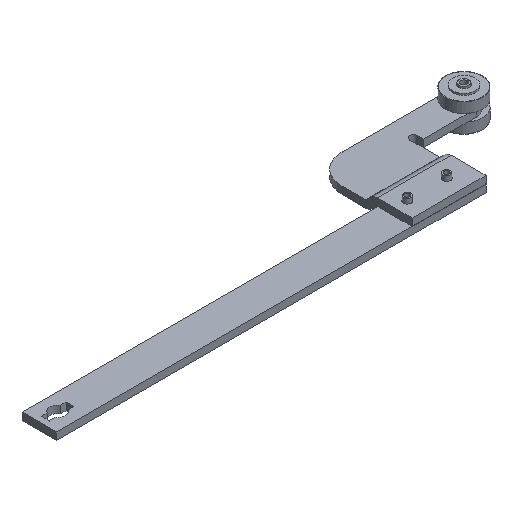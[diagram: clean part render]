
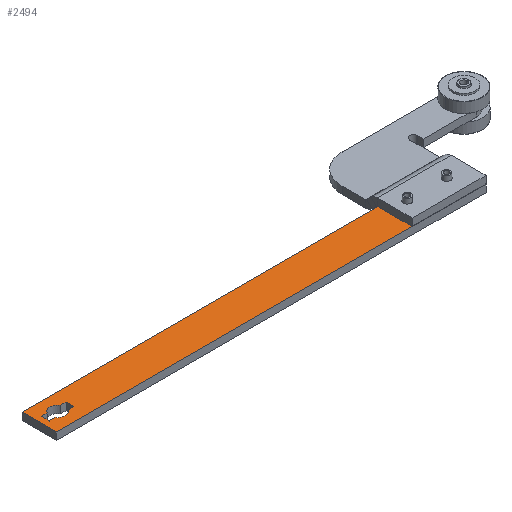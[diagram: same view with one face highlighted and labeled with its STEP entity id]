
A CAD part, isometric view. The second image highlights one B-rep face of the part: STEP entity #2494.
In plain terms, the highlighted planar face has unit normal (0, 0, 1).
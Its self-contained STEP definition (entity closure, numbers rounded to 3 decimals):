
#8 = AXIS2_PLACEMENT_3D ( 'NONE', #658, #1320, #1546 ) ;
#9 = FACE_BOUND ( 'NONE', #1313, .T. ) ;
#28 = VERTEX_POINT ( 'NONE', #212 ) ;
#63 = DIRECTION ( 'NONE',  ( 1., 0., 0. ) ) ;
#115 = ORIENTED_EDGE ( 'NONE', *, *, #1394, .F. ) ;
#122 = ORIENTED_EDGE ( 'NONE', *, *, #598, .T. ) ;
#126 = CARTESIAN_POINT ( 'NONE',  ( 167.05, 7., 0. ) ) ;
#128 = VERTEX_POINT ( 'NONE', #2424 ) ;
#172 = CIRCLE ( 'NONE', #312, 1.55 ) ;
#197 = EDGE_CURVE ( 'NONE', #2375, #626, #2498, .T. ) ;
#212 = CARTESIAN_POINT ( 'NONE',  ( 151.05, 7., 0. ) ) ;
#264 = DIRECTION ( 'NONE',  ( -1., 0., 0. ) ) ;
#276 = LINE ( 'NONE', #1157, #2384 ) ;
#288 = VERTEX_POINT ( 'NONE', #768 ) ;
#312 = AXIS2_PLACEMENT_3D ( 'NONE', #1390, #1438, #2714 ) ;
#333 = DIRECTION ( 'NONE',  ( 0., 0., 1. ) ) ;
#374 = CIRCLE ( 'NONE', #877, 1.55 ) ;
#404 = VECTOR ( 'NONE', #2761, 1000. ) ;
#439 = FACE_BOUND ( 'NONE', #1035, .T. ) ;
#445 = CARTESIAN_POINT ( 'NONE',  ( 149.5, 7., 0. ) ) ;
#451 = FACE_BOUND ( 'NONE', #745, .T. ) ;
#494 = CARTESIAN_POINT ( 'NONE',  ( 4.815, 5.45, 0. ) ) ;
#510 = DIRECTION ( 'NONE',  ( 1., 0., 0. ) ) ;
#511 = CIRCLE ( 'NONE', #2131, 1.55 ) ;
#548 = LINE ( 'NONE', #1836, #1267 ) ;
#565 = ORIENTED_EDGE ( 'NONE', *, *, #2770, .F. ) ;
#581 = ORIENTED_EDGE ( 'NONE', *, *, #886, .F. ) ;
#598 = EDGE_CURVE ( 'NONE', #1138, #2073, #827, .T. ) ;
#601 = VECTOR ( 'NONE', #2132, 1000. ) ;
#614 = CARTESIAN_POINT ( 'NONE',  ( 12.5, 5.45, 0. ) ) ;
#626 = VERTEX_POINT ( 'NONE', #2805 ) ;
#635 = CARTESIAN_POINT ( 'NONE',  ( 7.5, 7., 0. ) ) ;
#649 = DIRECTION ( 'NONE',  ( 1., 0., 0. ) ) ;
#658 = CARTESIAN_POINT ( 'NONE',  ( 149.5, 7., 0. ) ) ;
#697 = PLANE ( 'NONE',  #2317 ) ;
#719 = CARTESIAN_POINT ( 'NONE',  ( 7.5, 7., 0. ) ) ;
#720 = ORIENTED_EDGE ( 'NONE', *, *, #1533, .F. ) ;
#745 = EDGE_LOOP ( 'NONE', ( #1213, #2500 ) ) ;
#759 = DIRECTION ( 'NONE',  ( -1., 0., 0. ) ) ;
#768 = CARTESIAN_POINT ( 'NONE',  ( 10.185, 8.55, 0. ) ) ;
#805 = DIRECTION ( 'NONE',  ( 1., 0., 0. ) ) ;
#827 = LINE ( 'NONE', #1245, #2842 ) ;
#867 = ORIENTED_EDGE ( 'NONE', *, *, #197, .T. ) ;
#877 = AXIS2_PLACEMENT_3D ( 'NONE', #445, #2322, #510 ) ;
#886 = EDGE_CURVE ( 'NONE', #288, #128, #893, .T. ) ;
#893 = CIRCLE ( 'NONE', #1461, 3.1 ) ;
#967 = LINE ( 'NONE', #2089, #2851 ) ;
#1035 = EDGE_LOOP ( 'NONE', ( #1145, #581, #1341, #115, #1762, #565, #2247, #1424 ) ) ;
#1039 = LINE ( 'NONE', #1498, #2445 ) ;
#1049 = VERTEX_POINT ( 'NONE', #2086 ) ;
#1057 = DIRECTION ( 'NONE',  ( 0., 0., 1. ) ) ;
#1063 = AXIS2_PLACEMENT_3D ( 'NONE', #635, #1057, #649 ) ;
#1099 = EDGE_CURVE ( 'NONE', #626, #1138, #548, .T. ) ;
#1138 = VERTEX_POINT ( 'NONE', #1172 ) ;
#1145 = ORIENTED_EDGE ( 'NONE', *, *, #2166, .F. ) ;
#1157 = CARTESIAN_POINT ( 'NONE',  ( 4.815, 5.45, 0. ) ) ;
#1172 = CARTESIAN_POINT ( 'NONE',  ( 174.5, 0., 0. ) ) ;
#1183 = DIRECTION ( 'NONE',  ( 0., -1., 0. ) ) ;
#1213 = ORIENTED_EDGE ( 'NONE', *, *, #2533, .F. ) ;
#1219 = VECTOR ( 'NONE', #1183, 1000. ) ;
#1238 = CARTESIAN_POINT ( 'NONE',  ( 12.5, 8.55, 0. ) ) ;
#1245 = CARTESIAN_POINT ( 'NONE',  ( 174.5, 0., 0. ) ) ;
#1267 = VECTOR ( 'NONE', #1657, 1000. ) ;
#1298 = VECTOR ( 'NONE', #805, 1000. ) ;
#1313 = EDGE_LOOP ( 'NONE', ( #2321, #720 ) ) ;
#1320 = DIRECTION ( 'NONE',  ( 0., 0., 1. ) ) ;
#1327 = CARTESIAN_POINT ( 'NONE',  ( 0., 14., 0. ) ) ;
#1341 = ORIENTED_EDGE ( 'NONE', *, *, #1753, .F. ) ;
#1366 = DIRECTION ( 'NONE',  ( 0., 0., 1. ) ) ;
#1390 = CARTESIAN_POINT ( 'NONE',  ( 165.5, 7., 0. ) ) ;
#1394 = EDGE_CURVE ( 'NONE', #1880, #1049, #967, .T. ) ;
#1413 = EDGE_CURVE ( 'NONE', #2603, #2510, #276, .T. ) ;
#1420 = EDGE_LOOP ( 'NONE', ( #867, #2499, #122, #1746 ) ) ;
#1424 = ORIENTED_EDGE ( 'NONE', *, *, #2063, .F. ) ;
#1429 = CARTESIAN_POINT ( 'NONE',  ( 2.5, 5.45, 0. ) ) ;
#1438 = DIRECTION ( 'NONE',  ( 0., 0., 1. ) ) ;
#1456 = VERTEX_POINT ( 'NONE', #2352 ) ;
#1461 = AXIS2_PLACEMENT_3D ( 'NONE', #719, #1366, #2706 ) ;
#1498 = CARTESIAN_POINT ( 'NONE',  ( 0., 14., 0. ) ) ;
#1533 = EDGE_CURVE ( 'NONE', #2724, #2678, #511, .T. ) ;
#1546 = DIRECTION ( 'NONE',  ( 1., 0., 0. ) ) ;
#1556 = EDGE_CURVE ( 'NONE', #2024, #28, #374, .T. ) ;
#1598 = CARTESIAN_POINT ( 'NONE',  ( 4.815, 8.55, 0. ) ) ;
#1613 = LINE ( 'NONE', #1598, #2400 ) ;
#1657 = DIRECTION ( 'NONE',  ( 1., 0., 0. ) ) ;
#1665 = CARTESIAN_POINT ( 'NONE',  ( 163.95, 7., 0. ) ) ;
#1741 = LINE ( 'NONE', #1238, #601 ) ;
#1746 = ORIENTED_EDGE ( 'NONE', *, *, #2242, .T. ) ;
#1753 = EDGE_CURVE ( 'NONE', #1049, #288, #1741, .T. ) ;
#1756 = CIRCLE ( 'NONE', #1063, 3.1 ) ;
#1762 = ORIENTED_EDGE ( 'NONE', *, *, #2341, .F. ) ;
#1836 = CARTESIAN_POINT ( 'NONE',  ( 0., 0., 0. ) ) ;
#1850 = CARTESIAN_POINT ( 'NONE',  ( 174.5, 14., 0. ) ) ;
#1853 = DIRECTION ( 'NONE',  ( 0., 1., 0. ) ) ;
#1880 = VERTEX_POINT ( 'NONE', #614 ) ;
#1895 = CARTESIAN_POINT ( 'NONE',  ( 12.5, 5.45, 0. ) ) ;
#1958 = LINE ( 'NONE', #1895, #1298 ) ;
#2001 = CARTESIAN_POINT ( 'NONE',  ( 0., 0., 0. ) ) ;
#2024 = VERTEX_POINT ( 'NONE', #2190 ) ;
#2063 = EDGE_CURVE ( 'NONE', #2726, #2603, #2487, .T. ) ;
#2073 = VERTEX_POINT ( 'NONE', #1850 ) ;
#2086 = CARTESIAN_POINT ( 'NONE',  ( 12.5, 8.55, 0. ) ) ;
#2089 = CARTESIAN_POINT ( 'NONE',  ( 12.5, 5.45, 0. ) ) ;
#2131 = AXIS2_PLACEMENT_3D ( 'NONE', #2313, #333, #2787 ) ;
#2132 = DIRECTION ( 'NONE',  ( -1., 0., 0. ) ) ;
#2134 = EDGE_CURVE ( 'NONE', #2678, #2724, #172, .T. ) ;
#2159 = DIRECTION ( 'NONE',  ( -1., 0., 0. ) ) ;
#2166 = EDGE_CURVE ( 'NONE', #128, #2726, #1613, .T. ) ;
#2190 = CARTESIAN_POINT ( 'NONE',  ( 147.95, 7., 0. ) ) ;
#2200 = DIRECTION ( 'NONE',  ( 0., 0., -1. ) ) ;
#2242 = EDGE_CURVE ( 'NONE', #2073, #2375, #1039, .T. ) ;
#2247 = ORIENTED_EDGE ( 'NONE', *, *, #1413, .F. ) ;
#2284 = CARTESIAN_POINT ( 'NONE',  ( 2.5, 5.45, 0. ) ) ;
#2313 = CARTESIAN_POINT ( 'NONE',  ( 165.5, 7., 0. ) ) ;
#2317 = AXIS2_PLACEMENT_3D ( 'NONE', #2001, #2200, #264 ) ;
#2321 = ORIENTED_EDGE ( 'NONE', *, *, #2134, .F. ) ;
#2322 = DIRECTION ( 'NONE',  ( 0., 0., 1. ) ) ;
#2341 = EDGE_CURVE ( 'NONE', #1456, #1880, #1958, .T. ) ;
#2352 = CARTESIAN_POINT ( 'NONE',  ( 10.185, 5.45, 0. ) ) ;
#2375 = VERTEX_POINT ( 'NONE', #1327 ) ;
#2384 = VECTOR ( 'NONE', #63, 1000. ) ;
#2400 = VECTOR ( 'NONE', #759, 1000. ) ;
#2418 = CIRCLE ( 'NONE', #8, 1.55 ) ;
#2420 = CARTESIAN_POINT ( 'NONE',  ( 2.5, 8.55, 0. ) ) ;
#2424 = CARTESIAN_POINT ( 'NONE',  ( 4.815, 8.55, 0. ) ) ;
#2445 = VECTOR ( 'NONE', #2159, 1000. ) ;
#2487 = LINE ( 'NONE', #2284, #404 ) ;
#2494 = ADVANCED_FACE ( 'NONE', ( #439, #451, #9, #2702 ), #697, .F. ) ;
#2498 = LINE ( 'NONE', #2723, #1219 ) ;
#2499 = ORIENTED_EDGE ( 'NONE', *, *, #1099, .T. ) ;
#2500 = ORIENTED_EDGE ( 'NONE', *, *, #1556, .F. ) ;
#2510 = VERTEX_POINT ( 'NONE', #494 ) ;
#2533 = EDGE_CURVE ( 'NONE', #28, #2024, #2418, .T. ) ;
#2603 = VERTEX_POINT ( 'NONE', #1429 ) ;
#2632 = DIRECTION ( 'NONE',  ( 0., 1., 0. ) ) ;
#2678 = VERTEX_POINT ( 'NONE', #126 ) ;
#2702 = FACE_OUTER_BOUND ( 'NONE', #1420, .T. ) ;
#2706 = DIRECTION ( 'NONE',  ( 1., 0., 0. ) ) ;
#2714 = DIRECTION ( 'NONE',  ( 1., 0., 0. ) ) ;
#2723 = CARTESIAN_POINT ( 'NONE',  ( 0., 0., 0. ) ) ;
#2724 = VERTEX_POINT ( 'NONE', #1665 ) ;
#2726 = VERTEX_POINT ( 'NONE', #2420 ) ;
#2761 = DIRECTION ( 'NONE',  ( 0., -1., 0. ) ) ;
#2770 = EDGE_CURVE ( 'NONE', #2510, #1456, #1756, .T. ) ;
#2787 = DIRECTION ( 'NONE',  ( 1., 0., 0. ) ) ;
#2805 = CARTESIAN_POINT ( 'NONE',  ( 0., 0., 0. ) ) ;
#2842 = VECTOR ( 'NONE', #2632, 1000. ) ;
#2851 = VECTOR ( 'NONE', #1853, 1000. ) ;
